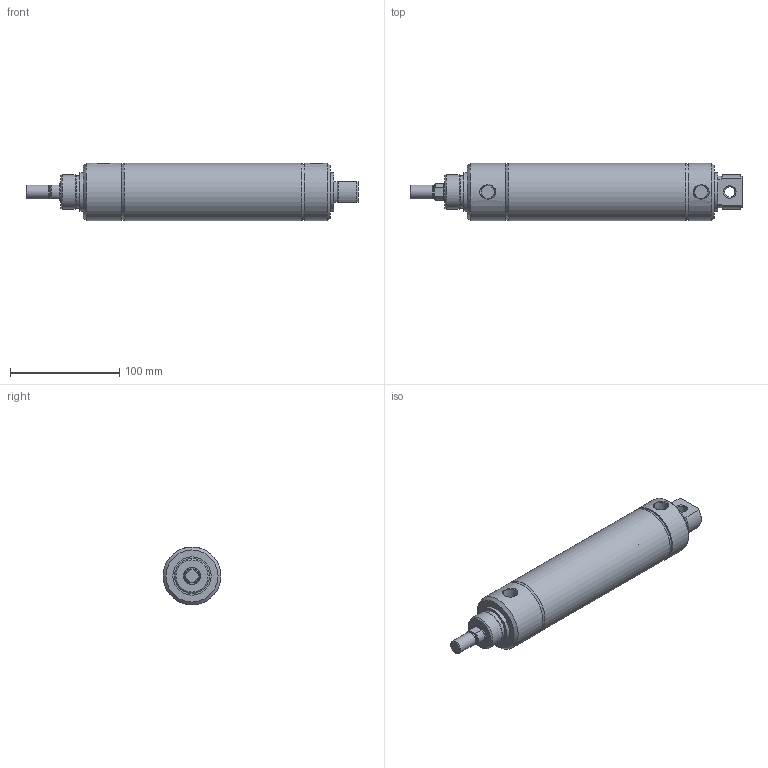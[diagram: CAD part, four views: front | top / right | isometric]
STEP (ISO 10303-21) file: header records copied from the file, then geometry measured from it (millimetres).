
FILE_DESCRIPTION( ( 'STEP AP214' ), '1' );
FILE_NAME( 'p:/temp/worker_478/temp/exporttempdir_82904_49_oBQaI/format_0/2000D02-05A.stp', '2020-05-07T19:15:09', ( 'License CC BY-ND 4.0' ), ( 'CADENAS' ), ' ', 'PARTsolutions', ' ' );
FILE_SCHEMA( ( 'AUTOMOTIVE_DESIGN { 1 0 10303 214 1 1 1 1 }' ) );
Length unit declared in the file: inch
Products named in the file (3): 2000D02-05A; _2000D02-05A-0000A00A0b; _2000D02-05A-0000A00A0r
Assembly tree (2 placements, depth 2):
  2000D02-05A
    _2000D02-05A-0000A00A0b
    _2000D02-05A-0000A00A0r
Bounding box: 303.23 x 52.78 x 52.78 mm (x, y, z)
Volume: 286768.3 mm3; surface area: 100427.2 mm2
Topology: 2 solids, 2 shells, 65 faces, 127 edges, 79 vertices
Faces by surface type: plane 23, cone 21, cylinder 21
Full cylindrical faces by diameter (mm): 9.525 x1, 11.189 x1, 12.7 x1, 15.875 x3, 29.23 x1, 31.75 x1, 34.925 x2, 50.8 x2, 52.578 x1, 52.781 x2
Entity records: 2254 total; most frequent: CARTESIAN_POINT 454, DIRECTION 276, ORIENTED_EDGE 188, AXIS2_PLACEMENT_3D 128, EDGE_LOOP 110, EDGE_CURVE 94, FACE_OUTER_BOUND 80, VERTEX_POINT 76
